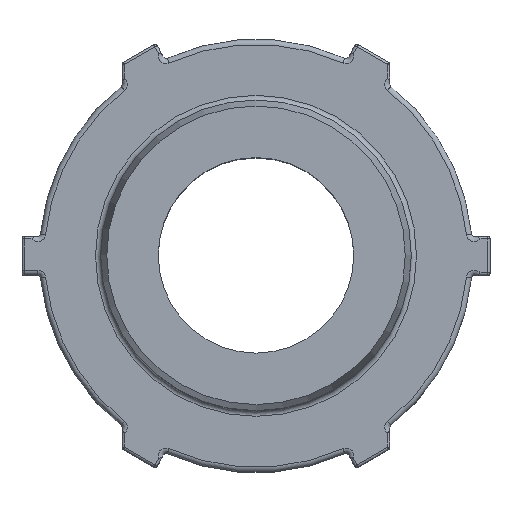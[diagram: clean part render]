
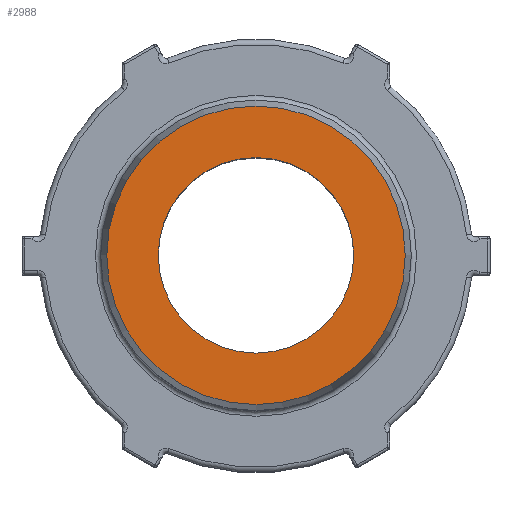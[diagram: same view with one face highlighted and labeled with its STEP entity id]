
A CAD part, top view. The second image highlights one B-rep face of the part: STEP entity #2988.
In plain terms, the highlighted planar face has unit normal (0, 0, 1).
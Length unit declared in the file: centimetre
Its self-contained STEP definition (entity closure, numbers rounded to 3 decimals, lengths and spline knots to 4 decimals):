
#619=PLANE('',#3358);
#877=VERTEX_POINT('',#31168);
#884=VERTEX_POINT('',#31189);
#1066=CIRCLE('',#3343,1.4326);
#1073=CIRCLE('',#3357,2.1874);
#1506=EDGE_CURVE('',#877,#877,#1066,.T.);
#1513=EDGE_CURVE('',#884,#884,#1073,.T.);
#2392=ORIENTED_EDGE('',*,*,#1506,.F.);
#2393=ORIENTED_EDGE('',*,*,#1513,.T.);
#2595=EDGE_LOOP('',(#2392));
#2596=EDGE_LOOP('',(#2393));
#2798=FACE_BOUND('',#2595,.T.);
#2799=FACE_BOUND('',#2596,.T.);
#2988=ADVANCED_FACE('',(#2798,#2799),#619,.T.);
#3343=AXIS2_PLACEMENT_3D('',#31167,#4154,#4155);
#3357=AXIS2_PLACEMENT_3D('',#31188,#4179,#4180);
#3358=AXIS2_PLACEMENT_3D('',#31190,#4181,$);
#4154=DIRECTION('',(0.,0.,1.));
#4155=DIRECTION('',(0.,1.433,0.));
#4179=DIRECTION('',(0.,0.,1.));
#4180=DIRECTION('',(0.,2.187,0.));
#4181=DIRECTION('',(0.,0.,1.));
#31167=CARTESIAN_POINT('',(0.,0.,0.));
#31168=CARTESIAN_POINT('',(0.,1.4326,0.));
#31188=CARTESIAN_POINT('',(0.,0.,0.));
#31189=CARTESIAN_POINT('',(0.,2.1874,0.));
#31190=CARTESIAN_POINT('',(0.,1.81,0.));
